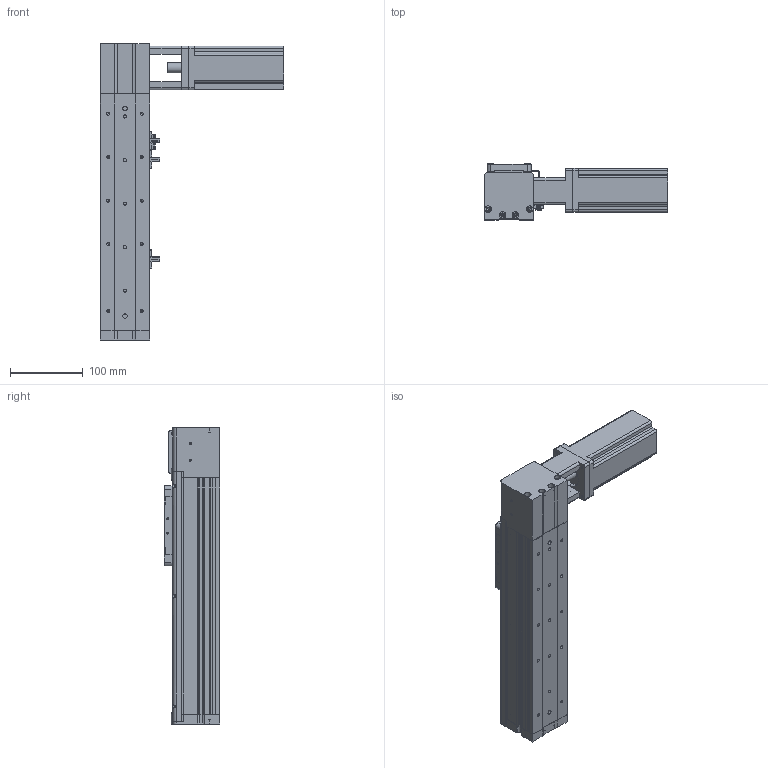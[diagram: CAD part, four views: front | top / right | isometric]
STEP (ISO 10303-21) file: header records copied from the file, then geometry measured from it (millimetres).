
FILE_DESCRIPTION (( 'STEP AP214' ), '1' );
FILE_NAME ('KSD68BS-S150-MRT-CR.STEP', '2019-11-07T06:08:23', ( '微软用户' ), ( '微软中国' ), 'SwSTEP 2.0', 'SolidWorks 2014', '' );
FILE_SCHEMA (( 'AUTOMOTIVE_DESIGN' ));
Length unit declared in the file: millimetre
Products named in the file (13): 68宽单导轨全封闭同步带端板; 68单导轨全封闭同步带电机座左; 68单导轨全封闭同步带安装板; 感应片68宽全封闭; U倰嫖萇EEㄜSX672; 台达ECMA－C20604AS伺服电机（400W); KSD68BS 150行程底板全封闭; KSD68BS-S150-MRT-CR; 100遵鎮湛假蚾啣1; KSD68BS 150行程盖板全封闭; 68遵裔啣揤啣1; 68宽单导轨全封闭丝杆传动安装板1防护罩; KSD68BS 150行程侧板全封闭
Assembly tree (16 placements, depth 2):
  KSD68BS-S150-MRT-CR
    KSD68BS 150行程底板全封闭
    台达ECMA－C20604AS伺服电机（400W)
    U倰嫖萇EEㄜSX672  x3
    感应片68宽全封闭
    68单导轨全封闭同步带安装板
    68单导轨全封闭同步带电机座左
    68宽单导轨全封闭同步带端板
    KSD68BS 150行程侧板全封闭  x2
    68宽单导轨全封闭丝杆传动安装板1防护罩
    68遵裔啣揤啣1  x2
    KSD68BS 150行程盖板全封闭
    100遵鎮湛假蚾啣1
Bounding box: 252.7 x 77 x 408.1 mm (x, y, z)
Volume: 1339526.4 mm3; surface area: 393698.8 mm2
Topology: 17 solids, 17 shells, 1317 faces, 3702 edges, 2378 vertices
Faces by surface type: plane 598, cylinder 587, cone 132
Entity records: 40636 total; most frequent: CARTESIAN_POINT 6851, DIRECTION 6089, ORIENTED_EDGE 5848, EDGE_CURVE 2924, AXIS2_PLACEMENT_3D 2164, VERTEX_POINT 1916, VECTOR 1761, LINE 1761
